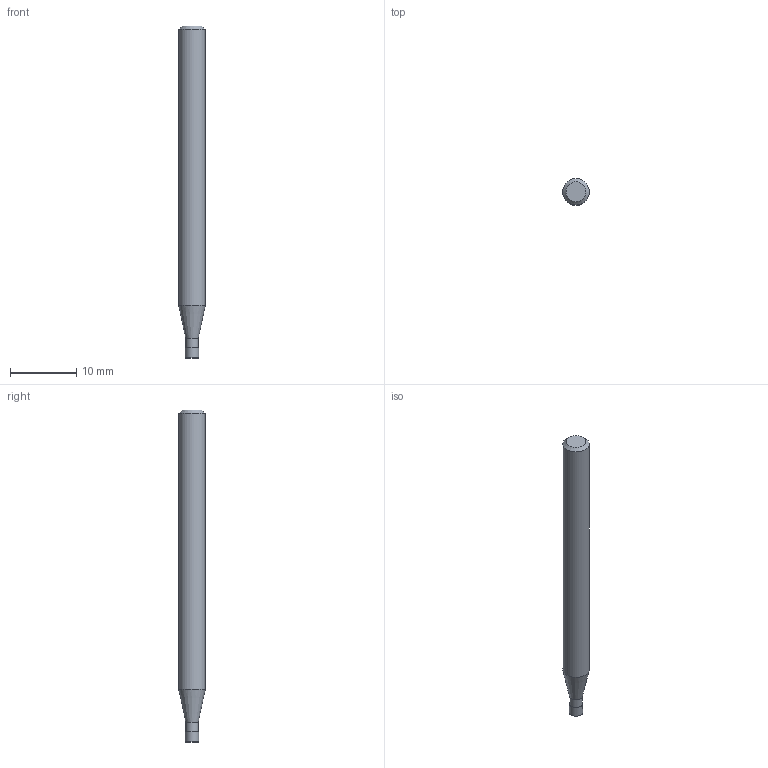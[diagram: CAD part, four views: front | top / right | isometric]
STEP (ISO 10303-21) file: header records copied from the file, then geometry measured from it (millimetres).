
FILE_DESCRIPTION((''),'2;1');
FILE_NAME('C:\Users\nsx150\AppData\Local\Temp\Mastercam 2021\CSMVKW3037\TEMP.step','2023-06-23T16:03:23',(''),(''),'STEP Write','Mastercam 2021 ... CNC Software, Inc.','');
FILE_SCHEMA(('AUTOMOTIVE_DESIGN'));
Length unit declared in the file: millimetre
Products named in the file (1): None
Bounding box: 4 x 4 x 50 mm (x, y, z)
Volume: 571.6 mm3; surface area: 611.6 mm2
Topology: 2 solids, 2 shells, 10 faces, 14 edges, 8 vertices
Faces by surface type: plane 4, cylinder 3, cone 2, torus 1
Full cylindrical faces by diameter (mm): 1.91 x1, 2 x1, 4 x1
Entity records: 232 total; most frequent: DIRECTION 40, CARTESIAN_POINT 28, AXIS2_PLACEMENT_3D 20, ORIENTED_EDGE 16, EDGE_LOOP 16, STYLED_ITEM 13, ADVANCED_FACE 10, FACE_BOUND 10
